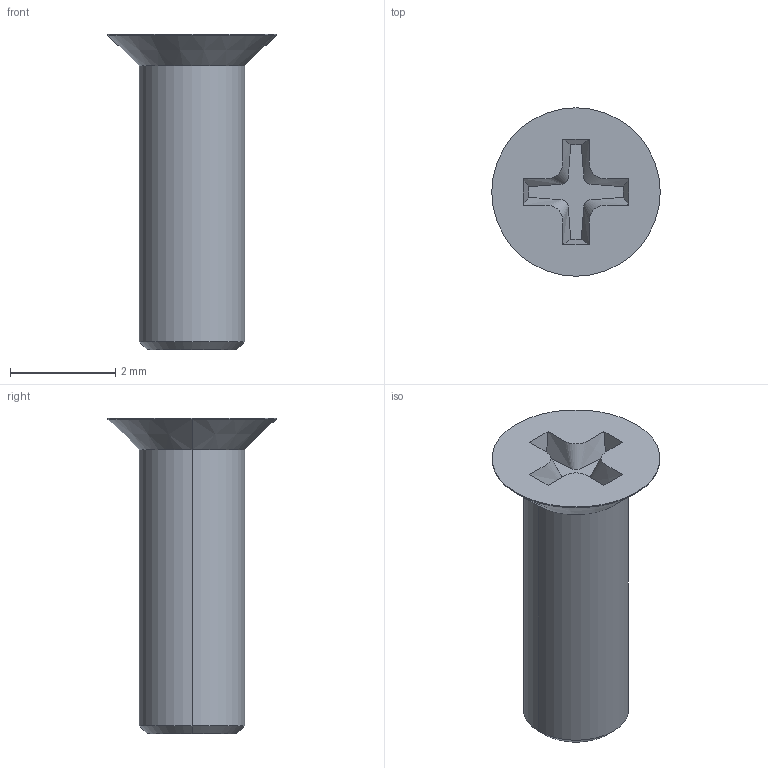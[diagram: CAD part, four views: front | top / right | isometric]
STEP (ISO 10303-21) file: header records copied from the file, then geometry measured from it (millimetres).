
FILE_DESCRIPTION (( 'STEP AP214' ), '1' );
FILE_NAME ('Flat Head SCREW M2 X6 MM.STEP', '2024-07-30T06:06:52', ( '' ), ( '' ), 'SwSTEP 2.0', 'SolidWorks 2023', '' );
FILE_SCHEMA (( 'AUTOMOTIVE_DESIGN' ));
Length unit declared in the file: millimetre
Products named in the file (1): Flat Head SCREW M2 X6 MM
Bounding box: 3.2 x 3.2 x 6 mm (x, y, z)
Volume: 19.6 mm3; surface area: 53.9 mm2
Topology: 1 solids, 1 shells, 19 faces, 58 edges, 42 vertices
Faces by surface type: plane 7, cone 4, cylinder 4, bspline 4
Entity records: 813 total; most frequent: CARTESIAN_POINT 252, ORIENTED_EDGE 116, DIRECTION 108, EDGE_CURVE 58, VERTEX_POINT 42, VECTOR 40, LINE 40, AXIS2_PLACEMENT_3D 34
